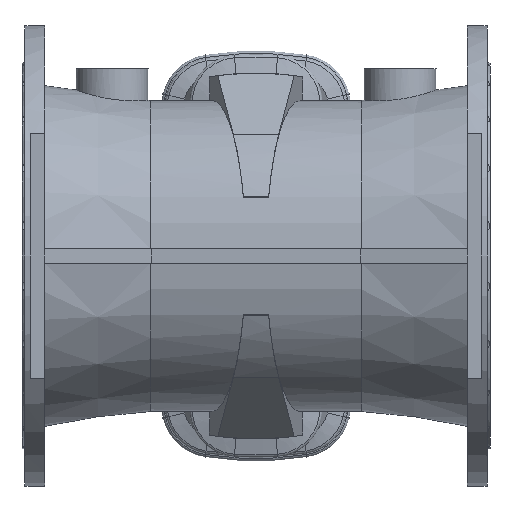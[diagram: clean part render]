
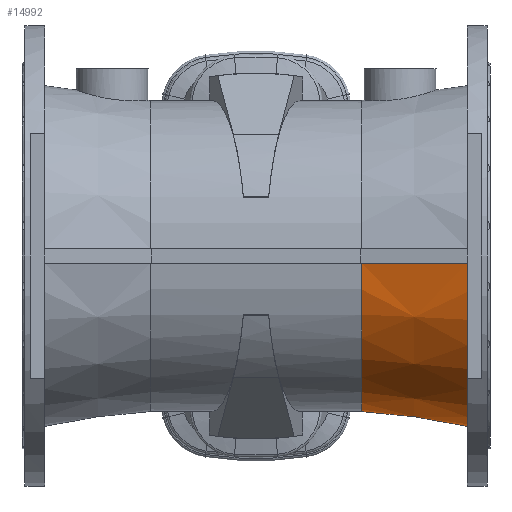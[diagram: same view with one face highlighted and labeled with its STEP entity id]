
A CAD part, front view. The second image highlights one B-rep face of the part: STEP entity #14992.
In plain terms, the highlighted conical face has half-angle 8 degrees and reference radius 216 mm.
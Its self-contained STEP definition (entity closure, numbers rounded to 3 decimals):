
#365 = AXIS2_PLACEMENT_3D ( 'NONE', #2139, #2140, #2141 ) ;
#1633 = EDGE_CURVE ( 'NONE', #3620, #3858, #8985, .T. ) ;
#1666 = EDGE_CURVE ( 'NONE', #3708, #3858, #3062, .T. ) ;
#1678 = EDGE_CURVE ( 'NONE', #3819, #3620, #3058, .T. ) ;
#2139 = CARTESIAN_POINT ( 'NONE',  ( 293.5, 0., 0. ) ) ;
#2140 = DIRECTION ( 'NONE',  ( -1., 0., 0. ) ) ;
#2141 = DIRECTION ( 'NONE',  ( 0., 0., 1. ) ) ;
#2229 = CARTESIAN_POINT ( 'NONE',  ( 195.533, -222.66, -10. ) ) ;
#2230 = CARTESIAN_POINT ( 'NONE',  ( 146.55, -215.768, -10. ) ) ;
#2234 = CARTESIAN_POINT ( 'NONE',  ( 244.517, -229.551, -10. ) ) ;
#2235 = CARTESIAN_POINT ( 'NONE',  ( 293.5, -236.441, -10. ) ) ;
#2266 = CARTESIAN_POINT ( 'NONE',  ( 152.609, 216.738, -7. ) ) ;
#2267 = CARTESIAN_POINT ( 'NONE',  ( 146.55, 215.887, -7. ) ) ;
#2271 = CARTESIAN_POINT ( 'NONE',  ( 158.667, 217.59, -7. ) ) ;
#2272 = CARTESIAN_POINT ( 'NONE',  ( 164.726, 218.442, -7. ) ) ;
#2273 = CARTESIAN_POINT ( 'NONE',  ( 207.651, 224.478, -7. ) ) ;
#2274 = CARTESIAN_POINT ( 'NONE',  ( 250.575, 230.514, -7. ) ) ;
#2275 = CARTESIAN_POINT ( 'NONE',  ( 293.5, 236.549, -7. ) ) ;
#2370 = EDGE_CURVE ( 'NONE', #3819, #3708, #9390, .T. ) ;
#2982 = ORIENTED_EDGE ( 'NONE', *, *, #1678, .T. ) ;
#3058 = B_SPLINE_CURVE_WITH_KNOTS ( 'NONE', 3,
 ( #2267, #2266, #2271, #2272, #2273, #2274, #2275 ),
 .UNSPECIFIED., .F., .F.,
 ( 4, 3, 4 ),
 ( 0.374, 0.392, 0.522 ),
 .UNSPECIFIED. ) ;
#3062 = B_SPLINE_CURVE_WITH_KNOTS ( 'NONE', 3,
 ( #2230, #2229, #2234, #2235 ),
 .UNSPECIFIED., .F., .F.,
 ( 4, 4 ),
 ( 0.352, 0.501 ),
 .UNSPECIFIED. ) ;
#3620 = VERTEX_POINT ( 'NONE', #11696 ) ;
#3708 = VERTEX_POINT ( 'NONE', #11784 ) ;
#3819 = VERTEX_POINT ( 'NONE', #11895 ) ;
#3858 = VERTEX_POINT ( 'NONE', #11934 ) ;
#6315 = EDGE_LOOP ( 'NONE', ( #13612, #2982, #17721, #17386 ) ) ;
#8985 = CIRCLE ( 'NONE', #365, 236.652 ) ;
#9390 = CIRCLE ( 'NONE', #14178, 216. ) ;
#10239 = CARTESIAN_POINT ( 'NONE',  ( 146.55, 0., 0. ) ) ;
#10240 = DIRECTION ( 'NONE',  ( -1., 0., 0. ) ) ;
#10241 = DIRECTION ( 'NONE',  ( 0., 0., 1. ) ) ;
#11696 = CARTESIAN_POINT ( 'NONE',  ( 293.5, 236.549, -7. ) ) ;
#11784 = CARTESIAN_POINT ( 'NONE',  ( 146.55, -215.768, -10. ) ) ;
#11895 = CARTESIAN_POINT ( 'NONE',  ( 146.55, 215.887, -7. ) ) ;
#11934 = CARTESIAN_POINT ( 'NONE',  ( 293.5, -236.441, -10. ) ) ;
#13612 = ORIENTED_EDGE ( 'NONE', *, *, #2370, .F. ) ;
#14178 = AXIS2_PLACEMENT_3D ( 'NONE', #10239, #10240, #10241 ) ;
#14992 = ADVANCED_FACE ( 'NONE', ( #15603 ), #15618, .T. ) ;
#15603 = FACE_OUTER_BOUND ( 'NONE', #6315, .T. ) ;
#15618 = CONICAL_SURFACE ( 'NONE', #17659, 216., 0.14 ) ;
#17386 = ORIENTED_EDGE ( 'NONE', *, *, #1666, .F. ) ;
#17421 = DIRECTION ( 'NONE',  ( 0., 0., -1. ) ) ;
#17428 = DIRECTION ( 'NONE',  ( 1., 0., 0. ) ) ;
#17429 = CARTESIAN_POINT ( 'NONE',  ( 146.55, 0., 0. ) ) ;
#17659 = AXIS2_PLACEMENT_3D ( 'NONE', #17429, #17428, #17421 ) ;
#17721 = ORIENTED_EDGE ( 'NONE', *, *, #1633, .T. ) ;
